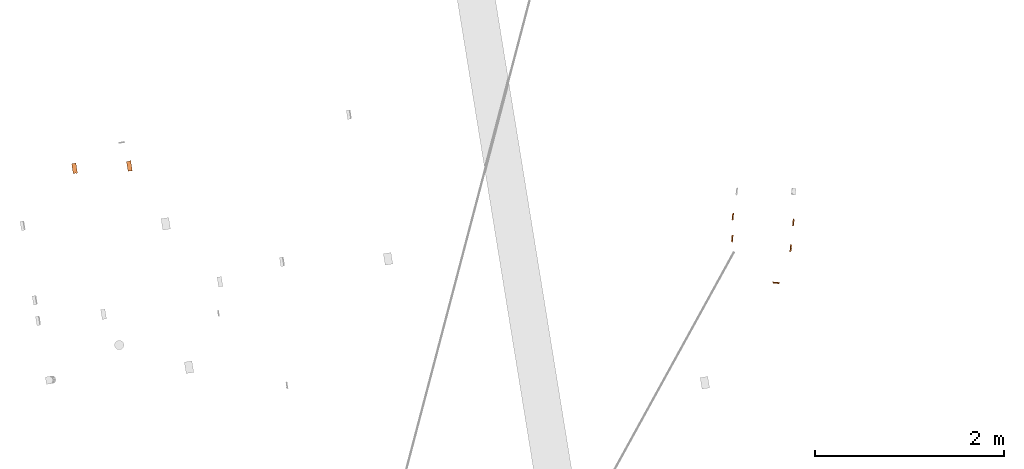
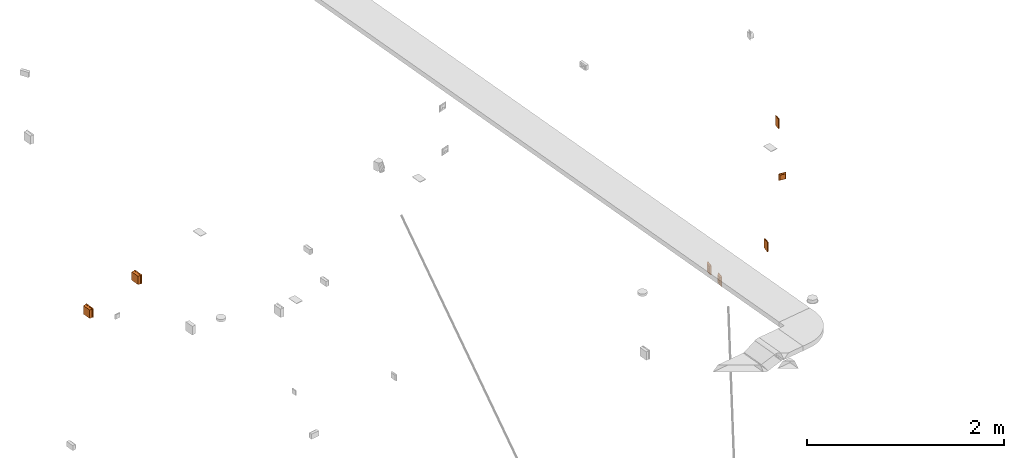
# One storey, part 28 of 33: 7 proxies.
"""IFC2X3 building model written with IfcOpenShell, lengths in millimetres."""

from ifc_helpers import new_model, entity, si_unit, converted_unit, derived_unit, direction, frame, frame_2d, origin, origin_with_axes, origin_2d_with_axis, place, context, subcontext, project, spatial, polyline, rectangle, circle, outline, extrude, faceted_brep, source, transform, mapped, material, material_list, type_object, element, save


model = new_model("IFC2X3")

# Units and contexts
plan_context = context("Plan", 3, precision=1e-05, world=origin_with_axes())
model_context = context("Model", 3, precision=0.01, world=origin(), true_north=direction((6.12323399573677e-17, 1.0)))
body_context = subcontext(model_context, "Body", "Model", "MODEL_VIEW")
ifc_project = project(units=[converted_unit("PLANEANGLEUNIT", "DEGREE", entity("IfcPositiveLengthMeasure", 0.0174532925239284), si_unit("PLANEANGLEUNIT", "RADIAN"), dimensions=[0, 0, 0, 0, 0, 0, 0]), si_unit("AREAUNIT", "SQUARE_METRE"), si_unit("LENGTHUNIT", "METRE", prefix="MILLI"), si_unit("MASSUNIT", "GRAM", prefix="KILO"), si_unit("POWERUNIT", "WATT"), si_unit("PRESSUREUNIT", "PASCAL", prefix="KILO"), si_unit("FORCEUNIT", "NEWTON", prefix="KILO"), si_unit("ELECTRICVOLTAGEUNIT", "VOLT"), si_unit("ELECTRICCURRENTUNIT", "AMPERE"), si_unit("THERMODYNAMICTEMPERATUREUNIT", "DEGREE_CELSIUS"), si_unit("TIMEUNIT", "SECOND"), si_unit("VOLUMEUNIT", "CUBIC_METRE"), derived_unit("LINEARVELOCITYUNIT", [(si_unit("LENGTHUNIT", "METRE"), 1), (si_unit("TIMEUNIT", "SECOND"), -1)]), derived_unit("VOLUMETRICFLOWRATEUNIT", [(si_unit("VOLUMEUNIT", "CUBIC_METRE"), 1), (si_unit("TIMEUNIT", "SECOND"), -1)]), derived_unit("THERMALTRANSMITTANCEUNIT", [(si_unit("POWERUNIT", "WATT"), 1), (si_unit("THERMODYNAMICTEMPERATUREUNIT", "KELVIN"), -1), (si_unit("AREAUNIT", "SQUARE_METRE"), -1)]), derived_unit("SOUNDPRESSUREUNIT", [(si_unit("PRESSUREUNIT", "PASCAL"), 1)])], contexts=[model_context, plan_context])

# Site, building, storey
site_placement = place(None, frame((-0.219946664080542, 0.12226179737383, 0.0), z_axis=(0.0, 0.0, 1.0), x_axis=(-0.160236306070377, 0.987078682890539, 0.0)))
site = spatial("IfcSite", under=ifc_project, at=site_placement, Name="Default", CompositionType="ELEMENT")
building_placement = place(site_placement, origin_with_axes())
building = spatial("IfcBuilding", under=site, at=building_placement, CompositionType="ELEMENT")
storey_placement = place(building_placement, frame((0.0, 0.0, 59000.0), z_axis=(0.0, 0.0, 1.0), x_axis=(1.0, 0.0, 0.0)))
storey = spatial("IfcBuildingStorey", under=building, at=storey_placement, Name="Nivå F", CompositionType="ELEMENT", Elevation=59000.0)

# Proxies
ifc_material_1 = material(Name="Material3")
ifc_material_2 = material(Name="Material2")
ifc_material_3 = material(Name="Material1")
ifc_material_list = material_list([ifc_material_1, ifc_material_2, ifc_material_3])
building_element_proxy_type_1 = type_object("IfcBuildingElementProxyType", Name="Dobbel stikk vegg innf 1½ boks 2P+J vert PH:RECESSED-EARTHED-SOCKET-2(VER)", PredefinedType="NOTDEFINED", material=ifc_material_list)
shared_shape_1 = source(origin(), body_context, "Body", "Brep", [
    faceted_brep([(0.499999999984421, 17.9077381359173, -43.2900460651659), (0.499999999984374, 17.4980087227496, -43.5927590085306), (0.499999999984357, 17.0, -43.6999999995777), (0.499999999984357, 5.0, -43.6999999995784), (0.499999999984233, 5.0, -44.4999999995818), (0.499999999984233, 17.0, -44.4999999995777), (0.499999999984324, 18.4212520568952, -43.9112981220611), (0.499999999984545, 19.0099539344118, -42.490046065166), (0.499999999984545, 13.0337787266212, -42.4900460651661), (0.499999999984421, 13.0337787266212, -43.2900460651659), (-0.500000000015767, 5.0, -44.4999999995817), (-0.500000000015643, 5.0, -43.6999999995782), (-0.500000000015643, 17.0, -43.6999999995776), (-0.500000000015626, 17.4980087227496, -43.5927590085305), (-0.500000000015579, 17.9077381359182, -43.2900460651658), (-0.500000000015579, 13.0337787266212, -43.2900460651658), (-0.500000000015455, 13.0337787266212, -42.4900460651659), (-0.500000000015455, 19.0099539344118, -42.4900460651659), (-0.500000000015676, 18.4212520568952, -43.911298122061), (-0.500000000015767, 17.0, -44.4999999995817)], [[[0, 1, 2, 3, 4, 5, 6, 7, 8, 9]], [[10, 11, 12, 13, 14, 15, 16, 17, 18, 19]], [[10, 19, 5, 4]], [[11, 10, 4, 3]], [[12, 11, 3, 2]], [[2, 1, 13, 12]], [[0, 14, 13, 1]], [[15, 14, 0, 9]], [[16, 15, 9, 8]], [[17, 16, 8, 7]], [[17, 7, 6, 18]], [[6, 5, 19, 18]]]),
    faceted_brep([(-0.500000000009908, 17.9240022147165, -6.72220296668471), (-0.500000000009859, 17.5079457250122, -6.41055048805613), (-0.500000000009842, 17.0, -6.29999999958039), (-0.500000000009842, 5.0, -6.29999999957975), (-0.500000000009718, 5.0, -5.49999999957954), (-0.500000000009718, 17.0, -5.49999999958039), (-0.50000000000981, 18.429913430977, -6.09228953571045), (-0.500000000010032, 19.022202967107, -7.52220296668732), (-0.500000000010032, 13.0667616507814, -7.52220296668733), (-0.500000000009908, 13.0667616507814, -6.7222029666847), (0.499999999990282, 5.0, -5.4999999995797), (0.499999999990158, 5.0, -6.29999999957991), (0.499999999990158, 17.0, -6.29999999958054), (0.499999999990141, 17.5079457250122, -6.41055048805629), (0.499999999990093, 17.9240022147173, -6.72220296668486), (0.499999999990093, 13.0667616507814, -6.72220296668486), (0.499999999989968, 13.0667616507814, -7.52220296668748), (0.499999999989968, 19.022202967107, -7.52220296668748), (0.49999999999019, 18.429913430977, -6.09228953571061), (0.499999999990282, 17.0, -5.4999999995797)], [[[0, 1, 2, 3, 4, 5, 6, 7, 8, 9]], [[10, 11, 12, 13, 14, 15, 16, 17, 18, 19]], [[5, 19, 18, 6]], [[18, 17, 7, 6]], [[8, 7, 17, 16]], [[9, 8, 16, 15]], [[0, 9, 15, 14]], [[14, 13, 1, 0]], [[12, 2, 1, 13]], [[3, 2, 12, 11]], [[4, 3, 11, 10]], [[5, 4, 10, 19]]]),
    faceted_brep([(-0.500000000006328, 18.4212520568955, 6.0887018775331), (-0.500000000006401, 17.0, 5.5000000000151), (-0.500000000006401, 5.0, 5.5000000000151), (-0.500000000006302, 5.0, 6.30000000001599), (-0.500000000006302, 17.0, 6.30000000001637), (-0.500000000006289, 17.4980087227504, 6.40724099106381), (-0.500000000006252, 17.9077381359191, 6.70995393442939), (-0.500000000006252, 13.0337787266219, 6.70995393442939), (-0.500000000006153, 13.0337787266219, 7.50995393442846), (-0.500000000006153, 19.0099539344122, 7.50995393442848), (0.499999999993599, 5.0, 5.50000000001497), (0.499999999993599, 17.0, 5.50000000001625), (0.499999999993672, 18.4212520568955, 6.08870187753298), (0.499999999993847, 19.0099539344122, 7.50995393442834), (0.499999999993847, 13.0337787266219, 7.50995393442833), (0.499999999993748, 13.0337787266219, 6.70995393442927), (0.499999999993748, 17.9077381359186, 6.70995393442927), (0.499999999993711, 17.4980087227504, 6.40724099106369), (0.499999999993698, 17.0, 6.30000000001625), (0.499999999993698, 5.0, 6.30000000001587)], [[[0, 1, 2, 3, 4, 5, 6, 7, 8, 9]], [[10, 11, 12, 13, 14, 15, 16, 17, 18, 19]], [[2, 1, 11, 10]], [[3, 2, 10, 19]], [[4, 3, 19, 18]], [[18, 17, 5, 4]], [[16, 6, 5, 17]], [[7, 6, 16, 15]], [[8, 7, 15, 14]], [[9, 8, 14, 13]], [[9, 13, 12, 0]], [[12, 11, 1, 0]]]),
    faceted_brep([(-0.50000000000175, 17.9240022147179, 43.2777970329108), (-0.500000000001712, 17.5079457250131, 43.5894495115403), (-0.500000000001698, 17.0, 43.7000000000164), (-0.500000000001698, 5.0, 43.7000000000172), (-0.5000000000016, 5.0, 44.5000000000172), (-0.5000000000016, 17.0, 44.5000000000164), (-0.500000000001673, 18.4299134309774, 43.9077104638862), (-0.500000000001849, 19.0222029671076, 42.4777970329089), (-0.500000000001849, 13.0667616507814, 42.4777970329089), (-0.50000000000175, 13.0667616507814, 43.2777970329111), (0.4999999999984, 5.0, 44.5000000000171), (0.499999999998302, 5.0, 43.7000000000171), (0.499999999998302, 17.0, 43.7000000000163), (0.499999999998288, 17.5079457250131, 43.5894495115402), (0.49999999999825, 17.9240022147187, 43.277797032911), (0.49999999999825, 13.0667616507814, 43.277797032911), (0.499999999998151, 13.0667616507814, 42.4777970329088), (0.499999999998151, 19.0222029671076, 42.4777970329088), (0.499999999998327, 18.4299134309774, 43.9077104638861), (0.4999999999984, 17.0, 44.5000000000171)], [[[0, 1, 2, 3, 4, 5, 6, 7, 8, 9]], [[10, 11, 12, 13, 14, 15, 16, 17, 18, 19]], [[5, 19, 18, 6]], [[18, 17, 7, 6]], [[8, 7, 17, 16]], [[9, 8, 16, 15]], [[0, 9, 15, 14]], [[14, 13, 1, 0]], [[12, 2, 1, 13]], [[3, 2, 12, 11]], [[4, 3, 11, 10]], [[5, 4, 10, 19]]]),
    faceted_brep([(-8.89218180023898, 5.50000000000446, -26.4355061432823), (-10.0, 5.50000000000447, -27.5433243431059), (-11.2716621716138, 5.50000000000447, -26.2716621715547), (-12.5433243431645, 5.50000000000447, -25.0), (-11.107818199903, 5.50000000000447, -23.5644938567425), (-10.0, 5.50000000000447, -22.456675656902), (-8.72833782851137, 5.50000000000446, -23.7283378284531), (-7.45667565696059, 5.50000000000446, -25.0), (-7.45667565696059, 5.0, -25.0), (-8.72833782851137, 5.0, -23.7283378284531), (-10.0, 5.0, -22.456675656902), (-11.2716621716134, 5.0, -23.7283378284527), (-12.5433243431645, 5.0, -25.0), (-11.2716621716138, 5.0, -26.2716621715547), (-10.0, 5.0, -27.5433243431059), (-8.72833782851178, 5.0, -26.2716621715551)], [[[0, 1, 2, 3, 4, 5, 6, 7]], [[8, 9, 10, 11, 12, 13, 14, 15]], [[11, 10, 5, 4, 3, 12]], [[13, 12, 3, 2, 1, 14]], [[15, 14, 1, 0, 7, 8]], [[9, 8, 7, 6, 5, 10]]]),
    faceted_brep([(12.5429237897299, 5.0, -25.0), (11.2714618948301, 5.0, -23.7285381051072), (10.0, 5.0, -22.457076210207), (8.72853810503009, 5.0, -23.7285381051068), (7.4570762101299, 5.0, -25.0), (8.72853810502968, 5.0, -26.2714618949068), (10.0, 5.0, -27.542923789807), (11.2714618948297, 5.0, -26.2714618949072), (11.1077309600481, 5.50000000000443, -23.5648071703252), (12.5429237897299, 5.50000000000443, -25.0), (11.2714618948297, 5.50000000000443, -26.2714618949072), (10.0, 5.50000000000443, -27.542923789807), (8.89226903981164, 5.50000000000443, -26.4351928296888), (7.4570762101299, 5.50000000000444, -25.0), (8.72853810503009, 5.50000000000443, -23.7285381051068), (10.0, 5.50000000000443, -22.457076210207)], [[[0, 1, 2, 3, 4, 5, 6, 7]], [[8, 9, 10, 11, 12, 13, 14, 15]], [[15, 14, 13, 4, 3, 2]], [[13, 12, 11, 6, 5, 4]], [[11, 10, 9, 0, 7, 6]], [[9, 8, 15, 2, 1, 0]]]),
    faceted_brep([(-7.54751482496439, 5.50000000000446, 25.0), (-8.9121454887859, 5.50000000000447, 23.6353693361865), (-10.0, 5.50000000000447, 22.5475148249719), (-11.2262425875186, 5.50000000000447, 23.7737574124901), (-12.4524851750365, 5.50000000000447, 25.0), (-11.0878545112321, 5.50000000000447, 26.3646306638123), (-10.0, 5.50000000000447, 27.452485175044), (-8.77375741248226, 5.50000000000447, 26.2262425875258), (-11.2262425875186, 5.0, 23.7737574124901), (-10.0, 5.0, 22.5475148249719), (-8.77375741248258, 5.0, 23.7737574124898), (-7.54751482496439, 5.0, 25.0), (-8.77375741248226, 5.0, 26.2262425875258), (-10.0, 5.0, 27.452485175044), (-11.2262425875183, 5.0, 26.2262425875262), (-12.4524851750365, 5.0, 25.0)], [[[0, 1, 2, 3, 4, 5, 6, 7]], [[8, 9, 10, 11, 12, 13, 14, 15]], [[14, 13, 6, 5, 4, 15]], [[8, 15, 4, 3, 2, 9]], [[10, 9, 2, 1, 0, 11]], [[12, 11, 0, 7, 6, 13]]]),
    faceted_brep([(8.76085027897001, 5.0, 23.7608502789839), (10.0, 5.0, 22.5217005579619), (11.2391497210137, 5.0, 23.7608502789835), (12.4782994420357, 5.0, 25.0), (11.239149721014, 5.0, 26.2391497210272), (10.0, 5.0, 27.4782994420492), (8.76085027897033, 5.0, 26.2391497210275), (7.52170055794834, 5.0, 25.0), (11.2391497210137, 5.50000000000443, 23.7608502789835), (10.0, 5.50000000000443, 22.5217005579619), (8.90643522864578, 5.50000000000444, 23.6152653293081), (7.52170055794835, 5.50000000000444, 25.0), (8.76085027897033, 5.50000000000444, 26.2391497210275), (10.0, 5.50000000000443, 27.4782994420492), (11.0935647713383, 5.50000000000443, 26.384734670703), (12.4782994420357, 5.50000000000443, 25.0)], [[[0, 1, 2, 3, 4, 5, 6, 7]], [[8, 9, 10, 11, 12, 13, 14, 15]], [[13, 12, 11, 7, 6, 5]], [[11, 10, 9, 1, 0, 7]], [[9, 8, 15, 3, 2, 1]], [[15, 14, 13, 5, 4, 3]]]),
    faceted_brep([(41.0, 5.0, -60.0), (19.318516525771, 5.0, -30.1763809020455), (17.3205080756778, 5.0, -35.0), (20.0, 5.0, -25.0), (14.1421356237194, 5.0, -39.1421356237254), (10.0, 5.0, -42.3205080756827), (5.17638090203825, 5.0, -44.3185165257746), (0.0, 5.0, -45.0), (19.3185165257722, 5.0, -19.8236190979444), (19.3185165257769, 5.0, 19.8236190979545), (-41.0, 5.0, -60.0), (41.0, 5.0, 60.0), (20.0, 5.0, 25.0), (19.3185165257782, 5.0, 30.1763809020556), (17.3205080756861, 5.0, 35.0), (14.1421356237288, 5.0, 39.1421356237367), (10.0, 5.0, 42.320508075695), (5.17638090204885, 5.0, 44.3185165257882), (0.0, 5.0, 45.0), (-41.0, 5.0, 60.0), (-19.3185165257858, 5.0, 19.8236190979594), (-20.0, 5.0, 25.0), (-5.17638090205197, 5.0, 44.3185165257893), (-10.0, 5.0, 42.3205080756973), (-14.1421356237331, 5.0, 39.14213562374), (-17.3205080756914, 5.0, 35.0), (-19.3185165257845, 5.0, 30.17638090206), (17.3205080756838, 5.0, 15.0), (17.3205080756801, 5.0, -15.0), (14.1421356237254, 5.0, 10.8578643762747), (14.1421356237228, 5.0, -10.8578643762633), (10.0, 5.0, 7.67949192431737), (10.0, 5.0, -7.67949192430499), (5.17638090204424, 5.0, 5.68148347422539), (5.17638090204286, 5.0, -5.68148347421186), (0.0, 5.0, -5.0), (0.0, 5.0, 5.0), (-5.17638090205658, 5.0, 5.68148347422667), (-5.17638090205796, 5.0, -5.68148347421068), (-10.0, 5.0, -7.67949192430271), (-10.0, 5.0, 7.67949192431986), (-14.1421356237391, 5.0, -10.8578643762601), (-14.1421356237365, 5.0, 10.8578643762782), (-17.3205080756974, 5.0, -15.0), (-17.3205080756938, 5.0, 15.0), (-19.3185165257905, 5.0, -19.82361909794), (-20.0, 5.0, -25.0), (-5.17638090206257, 5.0, -44.3185165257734), (-10.0, 5.0, -42.3205080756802), (-14.1421356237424, 5.0, -39.1421356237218), (-17.3205080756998, 5.0, -35.0), (-19.3185165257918, 5.0, -30.1763809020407), (-31.0, 17.0, -50.0), (-19.3185165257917, 17.0, -30.1763809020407), (-17.3205080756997, 17.0, -35.0), (-20.0, 17.0, -25.0), (-14.1421356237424, 17.0, -39.1421356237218), (-10.0, 17.0, -42.3205080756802), (-5.17638090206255, 17.0, -44.3185165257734), (0.0, 17.0, -45.0), (-19.3185165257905, 17.0, -19.82361909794), (-19.3185165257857, 17.0, 19.8236190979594), (31.0, 17.0, -50.0), (-31.0, 17.0, 50.0), (-20.0, 17.0, 25.0), (-19.3185165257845, 17.0, 30.17638090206), (-17.3205080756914, 17.0, 35.0), (-14.1421356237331, 17.0, 39.14213562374), (-10.0, 17.0, 42.3205080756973), (-5.17638090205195, 17.0, 44.3185165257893), (0.0, 17.0, 45.0), (31.0, 17.0, 50.0), (5.17638090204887, 17.0, 44.3185165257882), (10.0, 17.0, 42.320508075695), (14.1421356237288, 17.0, 39.1421356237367), (17.3205080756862, 17.0, 35.0), (19.3185165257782, 17.0, 30.1763809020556), (20.0, 17.0, 25.0), (19.318516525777, 17.0, 19.8236190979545), (5.17638090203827, 17.0, -44.3185165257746), (10.0, 17.0, -42.3205080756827), (14.1421356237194, 17.0, -39.1421356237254), (17.3205080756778, 17.0, -35.0), (19.318516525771, 17.0, -30.1763809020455), (20.0, 17.0, -25.0), (19.3185165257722, 17.0, -19.8236190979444), (17.3205080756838, 17.0, 15.0), (-17.3205080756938, 17.0, 15.0), (-17.3205080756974, 17.0, -15.0), (-14.1421356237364, 17.0, 10.8578643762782), (-14.1421356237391, 17.0, -10.8578643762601), (-10.0, 17.0, 7.67949192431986), (-10.0, 17.0, -7.67949192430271), (-5.17638090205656, 17.0, 5.68148347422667), (-5.17638090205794, 17.0, -5.68148347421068), (0.0, 17.0, -5.0), (0.0, 17.0, 5.0), (5.17638090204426, 17.0, 5.68148347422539), (5.17638090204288, 17.0, -5.68148347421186), (10.0, 17.0, -7.67949192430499), (10.0, 17.0, 7.67949192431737), (14.1421356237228, 17.0, -10.8578643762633), (14.1421356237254, 17.0, 10.8578643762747), (17.3205080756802, 17.0, -15.0)], [[[0, 1, 2]], [[1, 0, 3]], [[0, 2, 4]], [[4, 5, 0]], [[5, 6, 0]], [[0, 6, 7]], [[8, 3, 0]], [[8, 0, 9]], [[7, 10, 0]], [[0, 11, 9]], [[11, 12, 9]], [[12, 11, 13]], [[13, 11, 14]], [[15, 14, 11]], [[15, 11, 16]], [[17, 16, 11]], [[11, 18, 17]], [[18, 11, 19]], [[20, 19, 10]], [[20, 21, 19]], [[22, 18, 19]], [[23, 22, 19]], [[19, 24, 23]], [[24, 19, 25]], [[26, 25, 19]], [[26, 19, 21]], [[27, 8, 9]], [[27, 28, 8]], [[27, 29, 28]], [[28, 29, 30]], [[29, 31, 30]], [[32, 30, 31]], [[31, 33, 32]], [[32, 33, 34]], [[35, 34, 33]], [[33, 36, 35]], [[36, 37, 35]], [[35, 37, 38]], [[39, 38, 37]], [[37, 40, 39]], [[41, 39, 40]], [[40, 42, 41]], [[41, 42, 43]], [[42, 44, 43]], [[44, 45, 43]], [[20, 45, 44]], [[10, 45, 20]], [[46, 45, 10]], [[7, 47, 10]], [[47, 48, 10]], [[49, 10, 48]], [[10, 49, 50]], [[10, 50, 51]], [[51, 46, 10]], [[52, 53, 54]], [[53, 52, 55]], [[52, 54, 56]], [[56, 57, 52]], [[57, 58, 52]], [[52, 58, 59]], [[60, 55, 52]], [[52, 61, 60]], [[59, 62, 52]], [[61, 52, 63]], [[63, 64, 61]], [[64, 63, 65]], [[65, 63, 66]], [[67, 66, 63]], [[67, 63, 68]], [[69, 68, 63]], [[63, 70, 69]], [[70, 63, 71]], [[72, 70, 71]], [[73, 72, 71]], [[71, 74, 73]], [[74, 71, 75]], [[76, 75, 71]], [[76, 71, 77]], [[78, 77, 71]], [[78, 71, 62]], [[59, 79, 62]], [[79, 80, 62]], [[81, 62, 80]], [[62, 81, 82]], [[62, 82, 83]], [[83, 84, 62]], [[84, 85, 62]], [[62, 85, 78]], [[86, 78, 85]], [[61, 87, 60]], [[88, 60, 87]], [[87, 89, 88]], [[88, 89, 90]], [[89, 91, 90]], [[92, 90, 91]], [[91, 93, 92]], [[92, 93, 94]], [[95, 94, 93]], [[93, 96, 95]], [[96, 97, 95]], [[95, 97, 98]], [[99, 98, 97]], [[97, 100, 99]], [[101, 99, 100]], [[100, 102, 101]], [[101, 102, 103]], [[102, 86, 103]], [[85, 103, 86]], [[10, 52, 62, 0]], [[0, 62, 71, 11]], [[11, 71, 63, 19]], [[19, 63, 52, 10]], [[64, 21, 20, 61]], [[61, 20, 44, 87]], [[91, 89, 42, 40]], [[42, 89, 87, 44]], [[93, 91, 40, 37]], [[93, 37, 36, 96]], [[96, 36, 33, 97]], [[97, 33, 31, 100]], [[86, 102, 29, 27]], [[29, 102, 100, 31]], [[78, 86, 27, 9]], [[78, 9, 12, 77]], [[77, 12, 13, 76]], [[76, 13, 14, 75]], [[73, 74, 15, 16]], [[15, 74, 75, 14]], [[72, 73, 16, 17]], [[72, 17, 18, 70]], [[70, 18, 22, 69]], [[69, 22, 23, 68]], [[66, 67, 24, 25]], [[24, 67, 68, 23]], [[65, 66, 25, 26]], [[65, 26, 21, 64]], [[55, 46, 51, 53]], [[53, 51, 50, 54]], [[57, 56, 49, 48]], [[49, 56, 54, 50]], [[58, 57, 48, 47]], [[58, 47, 7, 59]], [[59, 7, 6, 79]], [[79, 6, 5, 80]], [[82, 81, 4, 2]], [[4, 81, 80, 5]], [[83, 82, 2, 1]], [[83, 1, 3, 84]], [[84, 3, 8, 85]], [[85, 8, 28, 103]], [[99, 101, 30, 32]], [[30, 101, 103, 28]], [[98, 99, 32, 34]], [[98, 34, 35, 95]], [[95, 35, 38, 94]], [[94, 38, 39, 92]], [[88, 90, 41, 43]], [[41, 90, 92, 39]], [[60, 88, 43, 45]], [[60, 45, 46, 55]]]),
    faceted_brep([(-41.0, 0.0, -60.0), (41.0, 0.0, -60.0), (41.0, 0.0, 60.0), (-41.0, 0.0, 60.0), (-41.0, 5.0, -60.0), (-41.0, 5.0, 60.0), (41.0, 5.0, 60.0), (41.0, 5.0, -60.0)], [[[0, 1, 2, 3]], [[4, 5, 6, 7]], [[1, 0, 4, 7]], [[2, 1, 7, 6]], [[3, 2, 6, 5]], [[0, 3, 5, 4]]]),
])
for number, where, z_axis, x_axis in (
    (1, (779806.472182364, -509107.252426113, 300.0), (0.0, 0.0, 1.0), (-0.965925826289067, 0.258819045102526, 0.0)),
    (2, (779737.077244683, -508456.645559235, 200.0), (0.0, 0.0, 1.0), (0.96592582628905, -0.25881904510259, 0.0)),
    (3, (779963.72306209, -508499.443613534, 200.0), (0.0, 0.0, 1.0), (0.96592582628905, -0.25881904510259, 0.0)),
    (4, (779541.887291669, -509036.357118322, 2000.0), (0.0, 0.0, 1.0), (-0.965925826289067, 0.258819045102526, 0.0)),
):
    element("IfcBuildingElementProxy", number, at=place(storey_placement, frame(where, z_axis=z_axis, x_axis=x_axis)), inside=storey, type_object=building_element_proxy_type_1, material=ifc_material_list, Name="Dobbel stikk vegg innf 1½ boks 2P+J vert PH:RECESSED-EARTHED-SOCKET-2(VER)", ObjectType="Dobbel stikk vegg innf 1½ boks 2P+J vert PH:RECESSED-EARTHED-SOCKET-2(VER)", context=body_context, shape_type="MappedRepresentation", body=[
        mapped(shared_shape_1, transform((0.0, 0.0, 0.0), scale=1.0)),
    ])
ifc_material_4 = material(Name="<Unnamed>")
building_element_proxy_type_2 = type_object("IfcBuildingElementProxyType", Name="1612510-0001:Junction box1", PredefinedType="NOTDEFINED", material=ifc_material_4)
shared_shape_2 = source(origin(), body_context, "Body", "SweptSolid", [
    extrude(rectangle(XDim=110.0, YDim=13.8000001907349, at=frame_2d((0.0, 2.22044604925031e-15), x_axis=(1.0, 0.0))), frame((0.0, 39.1000008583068, -55.0)), (0.0, 0.0, 1.0), 110.0),
    extrude(rectangle(XDim=104.0, YDim=32.2000007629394, at=origin_2d_with_axis()), frame((0.0, 16.1000003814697, -52.0)), (0.0, 0.0, 1.0), 104.0),
])
for number, where, z_axis, x_axis, name in (
    (5, (781520.661631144, -502242.784489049, 2000.0), (0.0, 0.0, 1.0), (-0.999975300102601, 0.00702845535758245, 0.0), "1612510-0001:Junction box1"),
    (6, (781590.418104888, -501665.220438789, 1800.0), (0.0, 0.0, 1.0), (-0.999975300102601, 0.00702845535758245, 0.0), "1612510-0001:Junction box1"),
):
    element("IfcBuildingElementProxy", number, at=place(storey_placement, frame(where, z_axis=z_axis, x_axis=x_axis)), inside=storey, type_object=building_element_proxy_type_2, material=ifc_material_4, Name=name, ObjectType="1612510-0001:Junction box1", context=body_context, shape_type="MappedRepresentation", body=[
        mapped(shared_shape_2, transform((0.0, 0.0, 0.0), scale=1.0)),
    ])
building_element_proxy_type_3 = type_object("IfcBuildingElementProxyType", Name="Tempraturføler:FLOOR-HEATER-CONTROLLER-1", PredefinedType="NOTDEFINED", material=ifc_material_4)
shared_shape_3 = source(origin(), body_context, "Body", "SweptSolid", [
    extrude(rectangle(XDim=0.200000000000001, YDim=9.99999999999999, at=frame_2d((2.22044604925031e-15, -2.25514051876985e-15), x_axis=(0.0, 1.0))), frame((21.0, -19.9768091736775, -9.77872704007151), z_axis=(0.0, 0.148340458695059, 0.988936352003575), x_axis=(-1.0, 0.0, 0.0)), (0.0, 0.0, 1.0), 20.0),
    extrude(rectangle(XDim=0.199999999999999, YDim=2.9750493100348, at=frame_2d((2.1094237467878e-15, 1.59594559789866e-16), x_axis=(0.0, 1.0))), frame((16.0, -18.493404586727, -9.88936352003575), z_axis=(1.0, 0.0, 0.0), x_axis=(0.0, 0.997230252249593, -0.0743762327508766)), (0.0, 0.0, 1.0), 9.99999999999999),
    extrude(outline(polyline([(-6.74042431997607, -0.988936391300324), (13.2595756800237, -0.988936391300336), (-6.5191513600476, 1.97787278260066), (-6.74042431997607, -0.988936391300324)])), frame((25.9, -17.9989363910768, -3.25957568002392), z_axis=(1.0, 0.0, 0.0), x_axis=(0.0, 0.0, 1.0)), (0.0, 0.0, 1.0), 0.200000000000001),
    extrude(outline(polyline([(-6.74042431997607, -0.988936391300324), (13.2595756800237, -0.988936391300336), (-6.5191513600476, 1.97787278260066), (-6.74042431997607, -0.988936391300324)])), frame((15.9, -17.9989363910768, -3.25957568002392), z_axis=(1.0, 0.0, 0.0), x_axis=(0.0, 0.0, 1.0)), (0.0, 0.0, 1.0), 0.199999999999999),
    extrude(rectangle(XDim=9.99999999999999, YDim=0.199999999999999, at=frame_2d((2.22044604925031e-15, 1.06165076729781e-15), x_axis=(1.0, 0.0))), frame((21.0, -17.0099999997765, -10.0), z_axis=(0.0, 0.0, 1.0), x_axis=(-1.0, 0.0, 0.0)), (0.0, 0.0, 1.0), 20.0),
    extrude(outline(polyline([(-29.4448637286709, -29.3938769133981), (-12.1243556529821, -29.3938769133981), (23.6713610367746, 21.2289111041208), (17.8978583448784, 37.5588427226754), (-29.4448637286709, -29.3938769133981)])), frame((36.0707106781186, -10.0707106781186, 0.0), z_axis=(-0.707106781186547, 0.707106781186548, 0.0), x_axis=(-0.577350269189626, -0.577350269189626, 0.577350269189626)), (0.0, 0.0, 1.0), 0.199999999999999),
    extrude(outline(polyline([(-41.0, -7.07106781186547), (41.0, -7.07106781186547), (31.0, 7.07106781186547), (-31.0, 7.07106781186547), (-41.0, -7.07106781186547)])), frame((-36.0707106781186, -10.0707106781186, 0.0), z_axis=(0.707106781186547, 0.707106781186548, 0.0), x_axis=(0.0, 0.0, 1.0)), (0.0, 0.0, 1.0), 0.200000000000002),
    extrude(outline(polyline([(12.1243556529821, -29.3938769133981), (29.4448637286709, -29.3938769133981), (-17.8978583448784, 37.5588427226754), (-23.6713610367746, 21.2289111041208), (12.1243556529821, -29.3938769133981)])), frame((0.0, -10.0707106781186, -36.0707106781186), z_axis=(0.0, 0.707106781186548, 0.707106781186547), x_axis=(0.577350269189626, 0.577350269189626, -0.577350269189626)), (0.0, 0.0, 1.0), 0.199999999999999),
    extrude(outline(polyline([(-31.0, -7.07106781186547), (31.0, -7.07106781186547), (41.0, 7.07106781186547), (-41.0, 7.07106781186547), (-31.0, -7.07106781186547)])), frame((0.0, -10.0707106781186, 36.0707106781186), z_axis=(0.0, 0.707106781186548, -0.707106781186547), x_axis=(-1.0, 0.0, 0.0)), (0.0, 0.0, 1.0), 0.199999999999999),
    extrude(rectangle(XDim=61.9999999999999, YDim=0.200000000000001, at=origin_2d_with_axis()), frame((0.0, -15.0, -31.0), z_axis=(0.0, 0.0, 1.0), x_axis=(-1.0, 0.0, 0.0)), (0.0, 0.0, 1.0), 61.9999999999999),
    extrude(circle(Radius=0.999999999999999, at=frame_2d((0.0, -1.05748743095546e-15), x_axis=(1.0, 0.0))), frame((-9.49999999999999, -17.1199999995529, 7.0), z_axis=(0.0, 1.0, 0.0), x_axis=(0.0, 0.0, 1.0)), (0.0, 0.0, 1.0), 0.199999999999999),
    extrude(circle(Radius=0.5, at=origin_2d_with_axis()), frame((-11.5, -17.1199999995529, 5.0), z_axis=(0.0, 1.0, 0.0), x_axis=(0.0, 0.0, 1.0)), (0.0, 0.0, 1.0), 0.199999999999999),
    extrude(circle(Radius=9.99999999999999, at=frame_2d((0.0, -1.48048240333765e-14), x_axis=(1.0, 0.0))), frame((-19.0, -17.1099999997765, 0.0), z_axis=(0.0, 1.0, 0.0), x_axis=(0.0, 0.0, 1.0)), (0.0, 0.0, 1.0), 0.199999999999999),
    extrude(rectangle(XDim=2.0, YDim=61.9999999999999, at=origin_2d_with_axis()), frame((0.0, -16.0, -31.0), z_axis=(0.0, 0.0, 1.0), x_axis=(0.0, -1.0, 0.0)), (0.0, 0.0, 1.0), 61.9999999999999),
    extrude(rectangle(XDim=4.99999999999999, YDim=81.9999999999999, at=origin_2d_with_axis()), frame((0.0, -2.5, -41.0), z_axis=(0.0, 0.0, 1.0), x_axis=(0.0, -1.0, 0.0)), (0.0, 0.0, 1.0), 81.9999999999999),
])
proxy_placement = place(storey_placement, frame((779209.887137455, -508835.009644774, 1600.0), z_axis=(0.0, 0.0, 1.0), x_axis=(-0.258819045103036, -0.96592582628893, 0.0)))
element("IfcBuildingElementProxy", 7, at=proxy_placement, inside=storey, type_object=building_element_proxy_type_3, material=ifc_material_4, Name="Tempraturføler:FLOOR-HEATER-CONTROLLER-1", ObjectType="Tempraturføler:FLOOR-HEATER-CONTROLLER-1", context=body_context, shape_type="MappedRepresentation", body=[
    mapped(shared_shape_3, transform((0.0, 0.0, 0.0), scale=1.0)),
])

save(model, "model.ifc")
